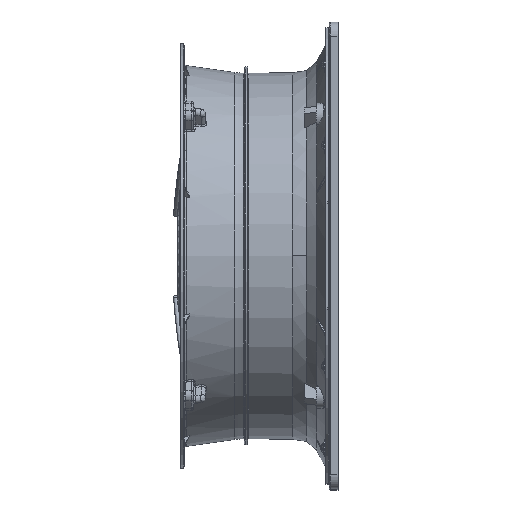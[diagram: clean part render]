
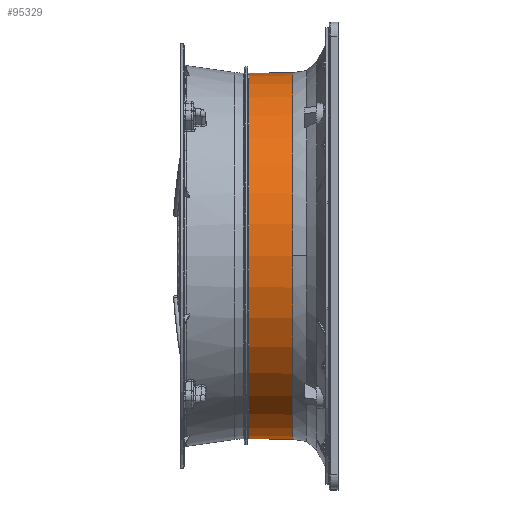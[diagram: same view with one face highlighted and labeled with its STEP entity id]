
A CAD part, top view. The second image highlights one B-rep face of the part: STEP entity #95329.
In plain terms, the highlighted conical face has half-angle 0.799 degrees and reference radius 256.57 mm.
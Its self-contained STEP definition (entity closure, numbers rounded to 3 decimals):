
#13450=DIRECTION('',(1.,0.014,0.));
#13451=VECTOR('',#13450,61.747);
#13452=CARTESIAN_POINT('',(93.996,256.14,
0.));
#13453=LINE('',#13452,#13451);
#13510=DIRECTION('',(1.,-0.014,0.));
#13511=VECTOR('',#13510,61.747);
#13512=CARTESIAN_POINT('',(93.996,-256.14,
0.));
#13513=LINE('',#13512,#13511);
#13514=CARTESIAN_POINT('',(155.738,0.,0.));
#13515=DIRECTION('',(-1.,0.,0.));
#13516=DIRECTION('',(0.,-1.,0.));
#13517=AXIS2_PLACEMENT_3D('',#13514,#13515,#13516);
#13519=CARTESIAN_POINT('',(93.996,0.,0.));
#13520=DIRECTION('',(1.,0.,0.));
#13521=DIRECTION('',(0.,1.,0.));
#13522=AXIS2_PLACEMENT_3D('',#13519,#13520,#13521);
#13524=CARTESIAN_POINT('',(155.738,0.,0.));
#13525=DIRECTION('',(-1.,0.,0.));
#13526=DIRECTION('',(0.,0.,1.));
#13527=AXIS2_PLACEMENT_3D('',#13524,#13525,#13526);
#70448=CARTESIAN_POINT('',(93.996,256.14,
0.));
#70449=CARTESIAN_POINT('',(93.996,-256.14,
0.));
#70450=VERTEX_POINT('',#70448);
#70451=VERTEX_POINT('',#70449);
#71377=CARTESIAN_POINT('',(155.738,-257.,
0.));
#71378=CARTESIAN_POINT('',(155.738,0.,
257.));
#71379=VERTEX_POINT('',#71377);
#71380=VERTEX_POINT('',#71378);
#71381=CARTESIAN_POINT('',(155.738,257.,0.));
#71382=VERTEX_POINT('',#71381);
#95316=CARTESIAN_POINT('',(124.867,0.,0.));
#95317=DIRECTION('',(1.,0.,0.));
#95318=DIRECTION('',(0.,-1.,0.));
#95319=AXIS2_PLACEMENT_3D('',#95316,#95317,#95318);
#95320=CONICAL_SURFACE('',#95319,256.57,0.799);
#95321=ORIENTED_EDGE('',*,*,#95288,.F.);
#95322=ORIENTED_EDGE('',*,*,#95278,.F.);
#95323=ORIENTED_EDGE('',*,*,#95253,.F.);
#95324=ORIENTED_EDGE('',*,*,#95272,.T.);
#95326=ORIENTED_EDGE('',*,*,#95325,.F.);
#95327=EDGE_LOOP('',(#95321,#95322,#95323,#95324,#95326));
#95328=FACE_OUTER_BOUND('',#95327,.F.);
#95329=ADVANCED_FACE('',(#95328),#95320,.T.);
#13518=CIRCLE('',#13517,257.);
#13523=CIRCLE('',#13522,256.14);
#13528=CIRCLE('',#13527,257.);
#95253=EDGE_CURVE('',#70450,#70451,#13523,.T.);
#95272=EDGE_CURVE('',#70450,#71382,#13453,.T.);
#95278=EDGE_CURVE('',#70451,#71379,#13513,.T.);
#95288=EDGE_CURVE('',#71379,#71380,#13518,.T.);
#95325=EDGE_CURVE('',#71380,#71382,#13528,.T.);
